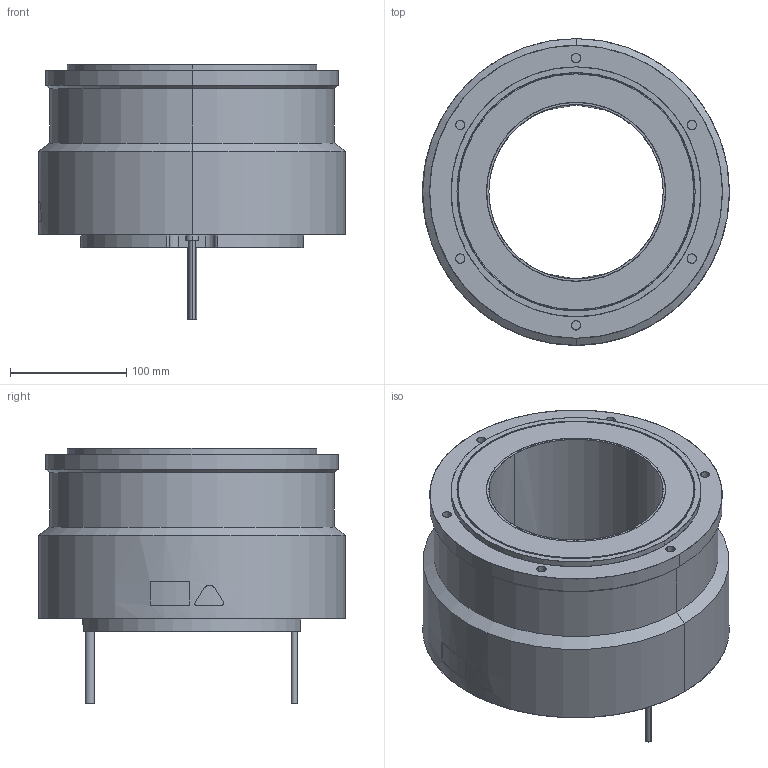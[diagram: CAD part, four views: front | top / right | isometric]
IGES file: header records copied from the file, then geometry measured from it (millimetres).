
Start section: SolidWorks IGES file using analytic representation for surfaces
Bounding box: 264.08 x 264 x 220 mm (x, y, z)
Surface area: 289857.1 mm2 (no closed solid volume)
Topology: 0 solids, 0 shells, 171 faces, 3659 edges, 3659 vertices
Faces by surface type: revolution 107, bspline 64
